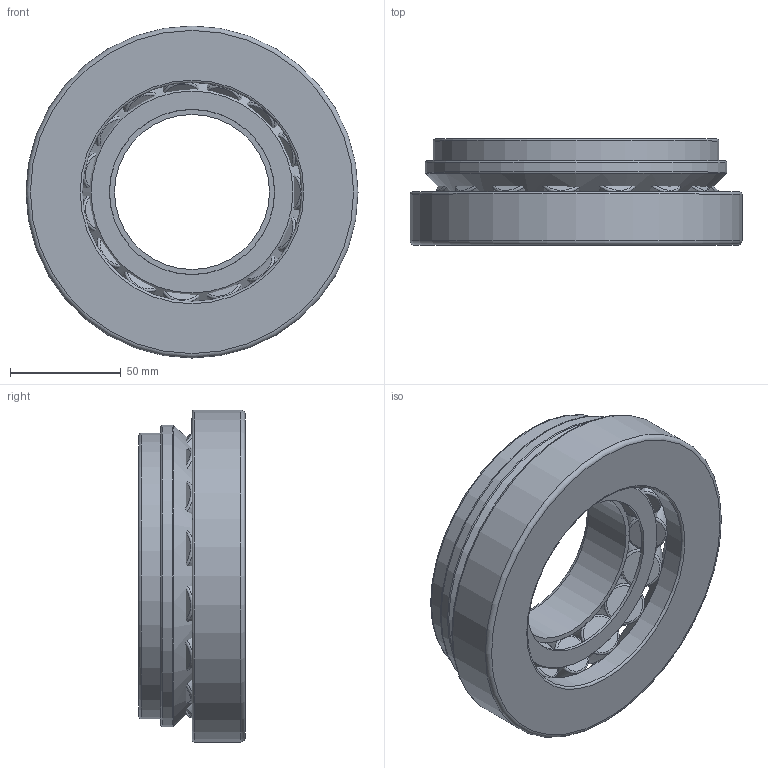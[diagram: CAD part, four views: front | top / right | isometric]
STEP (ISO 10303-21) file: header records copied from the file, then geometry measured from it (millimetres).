
FILE_DESCRIPTION(/* description */ (''),/* implementation_level */ '2;1');
FILE_NAME(/* name */ 'C:\Users\OUREHANEKD\Desktop\Ložiská\MODELY\ASL\294EJ\294--\29414EJ.stp',/* time_stamp */ '2016-09-23T12:55:02+02:00',/* author */ ('OUREHANEKD'),/* organization */ (''),/* preprocessor_version */ 'ST-DEVELOPER v15.6',/* originating_system */ 'Autodesk Inventor 2015',/* authorisation */ '');
FILE_SCHEMA (('AUTOMOTIVE_DESIGN { 1 0 10303 214 3 1 1 }'));
Length unit declared in the file: millimetre
Products named in the file (5): 29414EJ-01; 29414EJ-02; 29414EJ-kl; 29414EJ-roller; 29414EJ
Assembly tree (18 placements, depth 2):
  29414EJ
    29414EJ-01
    29414EJ-02
    29414EJ-kl
    29414EJ-roller  x15
Bounding box: 150 x 48 x 150 mm (x, y, z)
Volume: 457478.7 mm3; surface area: 129953.5 mm2
Topology: 18 solids, 18 shells, 108 faces, 197 edges, 129 vertices
Faces by surface type: plane 40, torus 38, bspline 18, cylinder 9, cone 3
Full cylindrical faces by diameter (mm): 70 x1, 74.608 x1, 99 x1, 129 x2, 133.512 x2, 136.392 x1, 150 x1
Entity records: 1169 total; most frequent: CARTESIAN_POINT 267, DIRECTION 204, AXIS2_PLACEMENT_3D 102, ORIENTED_EDGE 98, EDGE_LOOP 70, EDGE_CURVE 49, CIRCLE 45, VERTEX_POINT 45
